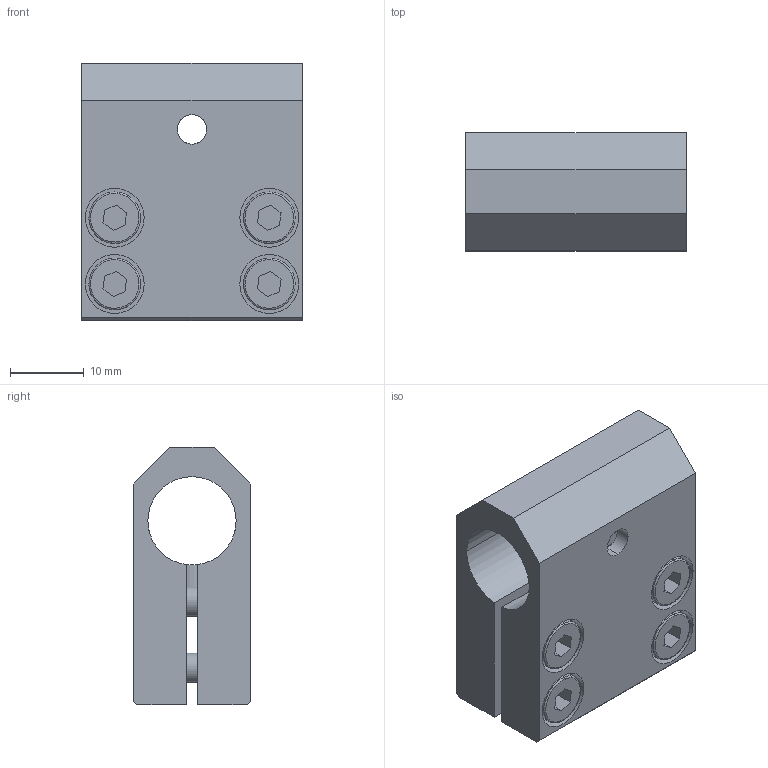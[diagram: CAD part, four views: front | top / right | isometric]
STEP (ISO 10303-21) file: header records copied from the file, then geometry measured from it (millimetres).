
FILE_DESCRIPTION (( 'STEP AP214' ), '1' );
FILE_NAME ('SMBF1-1208.STEP', '2019-11-06T06:36:28', ( '微软用户' ), ( '微软中国' ), 'SwSTEP 2.0', 'SolidWorks 2016', '' );
FILE_SCHEMA (( 'AUTOMOTIVE_DESIGN' ));
Length unit declared in the file: millimetre
Products named in the file (1): SMBF1-1208
Bounding box: 30 x 16 x 35 mm (x, y, z)
Volume: 10680.8 mm3; surface area: 8248.2 mm2
Topology: 9 solids, 9 shells, 910 faces, 2632 edges, 1740 vertices
Faces by surface type: plane 828, cylinder 66, cone 8, bspline 8
Entity records: 40790 total; most frequent: CARTESIAN_POINT 5889, DIRECTION 5292, ORIENTED_EDGE 5264, EDGE_CURVE 2632, AXIS2_PLACEMENT_3D 1783, VERTEX_POINT 1740, VECTOR 1726, LINE 1726
